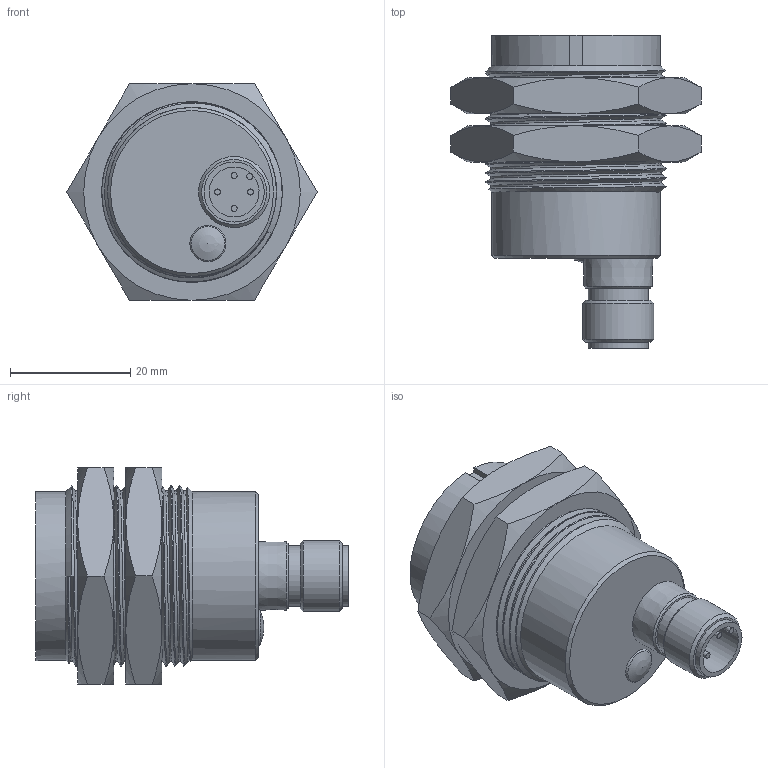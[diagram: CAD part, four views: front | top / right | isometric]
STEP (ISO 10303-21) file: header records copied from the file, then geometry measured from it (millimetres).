
FILE_DESCRIPTION(/* description */ ('Katalogmodell Elobau'),/* implementation_level */ '2;1');
FILE_NAME(/* name */ 'Katalogdaten.stp',/* time_stamp */ '2014-09-11T16:24:14+02:00',/* author */ ('Elobau GmbH & Co. KG'),/* organization */ ('Elobau GmbH & Co. KG'),/* preprocessor_version */ 'ST-DEVELOPER v15',/* originating_system */ 'SIEMENS PLM Software NX 8.5',/* authorisation */ '');
FILE_SCHEMA (('AUTOMOTIVE_DESIGN { 1 0 10303 214 3 1 1 1 }'));
Length unit declared in the file: millimetre
Products named in the file (1): 171271AZ_B
Bounding box: 41.57 x 52 x 36 mm (x, y, z)
Volume: 38166.4 mm3; surface area: 12382.9 mm2
Topology: 3 solids, 3 shells, 86 faces, 184 edges, 113 vertices
Faces by surface type: plane 38, cone 31, cylinder 13, bspline 2, sphere 1, torus 1
Full cylindrical faces by diameter (mm): 1 x4, 10 x2, 11.794 x1, 28.1 x1
Entity records: 6339 total; most frequent: CARTESIAN_POINT 4641, DIRECTION 331, ORIENTED_EDGE 316, EDGE_CURVE 158, AXIS2_PLACEMENT_3D 146, EDGE_LOOP 112, VERTEX_POINT 104, ADVANCED_FACE 86
